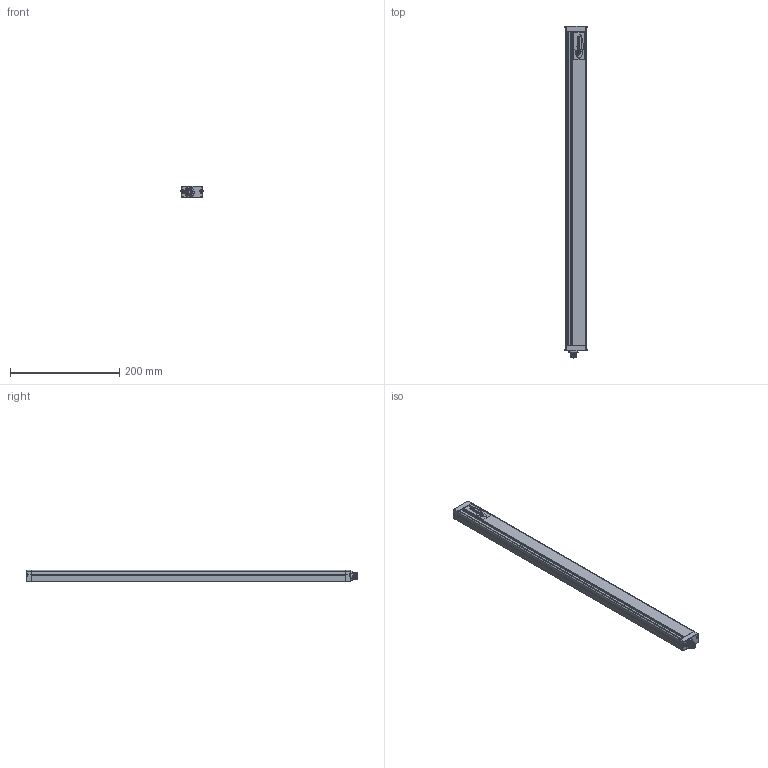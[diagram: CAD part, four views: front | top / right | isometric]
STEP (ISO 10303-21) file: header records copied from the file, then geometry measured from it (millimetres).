
FILE_DESCRIPTION(/* description */ (''),/* implementation_level */ '2;1');
FILE_NAME(/* name */ 'C:\Users\andre\SynologyDrive\Optoscan\Libreria Componenti\00 - Barriere\Polaris sorgente\Polaris_580_TX.stp',/* time_stamp */ '2021-06-04T10:56:29+02:00',/* author */ ('andre'),/* organization */ (''),/* preprocessor_version */ 'ST-DEVELOPER v18',/* originating_system */ 'Autodesk Inventor 2020',/* authorisation */ '');
FILE_SCHEMA (('AUTOMOTIVE_DESIGN { 1 0 10303 214 3 1 1 }'));
Length unit declared in the file: millimetre
Products named in the file (1): Polaris_580_TX
Bounding box: 40.5 x 608.8 x 20.75 mm (x, y, z)
Volume: 123348.7 mm3; surface area: 159193.1 mm2
Topology: 1 solids, 1 shells, 743 faces, 2072 edges, 1332 vertices
Faces by surface type: plane 332, cylinder 208, bspline 115, torus 74, cone 8, sphere 6
Full cylindrical faces by diameter (mm): 1 x8, 2.459 x4, 2.5 x4, 3 x4, 3.5 x4, 5.5 x4, 8 x1, 10.5 x2, 11.75 x9, 12 x1, 12.3 x3, 14.5 x1, 16.7 x1, 17.5 x1
Entity records: 30714 total; most frequent: CARTESIAN_POINT 11308, ORIENTED_EDGE 4130, DIRECTION 3590, EDGE_CURVE 2065, VERTEX_POINT 1333, AXIS2_PLACEMENT_3D 1263, LINE 1064, VECTOR 1064
